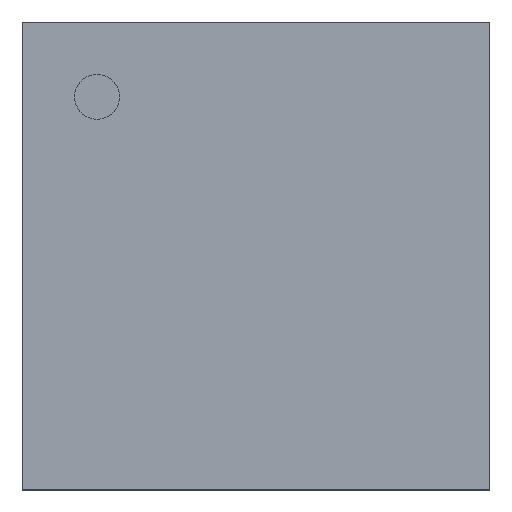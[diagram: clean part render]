
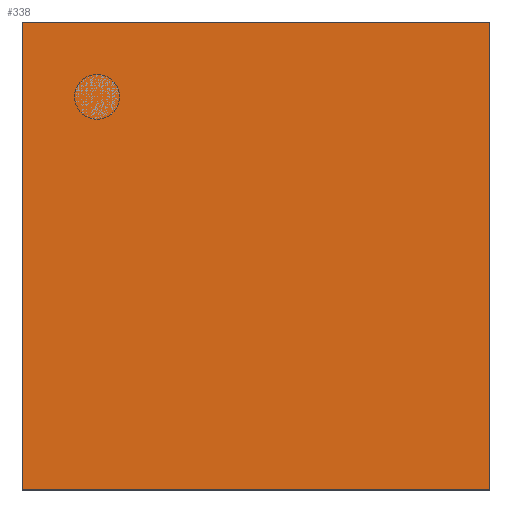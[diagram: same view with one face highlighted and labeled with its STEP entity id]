
A CAD part, top view. The second image highlights one B-rep face of the part: STEP entity #338.
In plain terms, the highlighted planar face has unit normal (0, 0, 1).
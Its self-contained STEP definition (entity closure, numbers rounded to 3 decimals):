
#24 = VERTEX_POINT('',#25);
#25 = CARTESIAN_POINT('',(-1.25,-1.25,1.21));
#32 = PLANE('',#33);
#33 = AXIS2_PLACEMENT_3D('',#34,#35,#36);
#34 = CARTESIAN_POINT('',(-1.25,-1.25,0.02));
#35 = DIRECTION('',(1.,0.,-0.));
#36 = DIRECTION('',(0.,0.,1.));
#44 = PLANE('',#45);
#45 = AXIS2_PLACEMENT_3D('',#46,#47,#48);
#46 = CARTESIAN_POINT('',(-1.25,-1.25,0.02));
#47 = DIRECTION('',(-0.,1.,0.));
#48 = DIRECTION('',(0.,0.,1.));
#85 = VERTEX_POINT('',#86);
#86 = CARTESIAN_POINT('',(-1.25,1.25,1.21));
#100 = PLANE('',#101);
#101 = AXIS2_PLACEMENT_3D('',#102,#103,#104);
#102 = CARTESIAN_POINT('',(-1.25,1.25,0.02));
#103 = DIRECTION('',(-0.,1.,0.));
#104 = DIRECTION('',(0.,0.,1.));
#112 = EDGE_CURVE('',#24,#85,#113,.T.);
#113 = SURFACE_CURVE('',#114,(#118,#125),.PCURVE_S1.);
#114 = LINE('',#115,#116);
#115 = CARTESIAN_POINT('',(-1.25,-1.25,1.21));
#116 = VECTOR('',#117,1.);
#117 = DIRECTION('',(-0.,1.,0.));
#118 = PCURVE('',#32,#119);
#119 = DEFINITIONAL_REPRESENTATION('',(#120),#124);
#120 = LINE('',#121,#122);
#121 = CARTESIAN_POINT('',(1.19,0.));
#122 = VECTOR('',#123,1.);
#123 = DIRECTION('',(0.,-1.));
#124 = ( GEOMETRIC_REPRESENTATION_CONTEXT(2) 
PARAMETRIC_REPRESENTATION_CONTEXT() REPRESENTATION_CONTEXT('2D SPACE',''
  ) );
#125 = PCURVE('',#126,#131);
#126 = PLANE('',#127);
#127 = AXIS2_PLACEMENT_3D('',#128,#129,#130);
#128 = CARTESIAN_POINT('',(-1.25,-1.25,1.21));
#129 = DIRECTION('',(0.,0.,1.));
#130 = DIRECTION('',(1.,0.,-0.));
#131 = DEFINITIONAL_REPRESENTATION('',(#132),#136);
#132 = LINE('',#133,#134);
#133 = CARTESIAN_POINT('',(0.,0.));
#134 = VECTOR('',#135,1.);
#135 = DIRECTION('',(0.,1.));
#136 = ( GEOMETRIC_REPRESENTATION_CONTEXT(2) 
PARAMETRIC_REPRESENTATION_CONTEXT() REPRESENTATION_CONTEXT('2D SPACE',''
  ) );
#144 = VERTEX_POINT('',#145);
#145 = CARTESIAN_POINT('',(1.25,-1.25,1.21));
#152 = PLANE('',#153);
#153 = AXIS2_PLACEMENT_3D('',#154,#155,#156);
#154 = CARTESIAN_POINT('',(1.25,-1.25,0.02));
#155 = DIRECTION('',(1.,0.,-0.));
#156 = DIRECTION('',(0.,0.,1.));
#195 = VERTEX_POINT('',#196);
#196 = CARTESIAN_POINT('',(1.25,1.25,1.21));
#217 = EDGE_CURVE('',#144,#195,#218,.T.);
#218 = SURFACE_CURVE('',#219,(#223,#230),.PCURVE_S1.);
#219 = LINE('',#220,#221);
#220 = CARTESIAN_POINT('',(1.25,-1.25,1.21));
#221 = VECTOR('',#222,1.);
#222 = DIRECTION('',(-0.,1.,0.));
#223 = PCURVE('',#152,#224);
#224 = DEFINITIONAL_REPRESENTATION('',(#225),#229);
#225 = LINE('',#226,#227);
#226 = CARTESIAN_POINT('',(1.19,0.));
#227 = VECTOR('',#228,1.);
#228 = DIRECTION('',(0.,-1.));
#229 = ( GEOMETRIC_REPRESENTATION_CONTEXT(2) 
PARAMETRIC_REPRESENTATION_CONTEXT() REPRESENTATION_CONTEXT('2D SPACE',''
  ) );
#230 = PCURVE('',#126,#231);
#231 = DEFINITIONAL_REPRESENTATION('',(#232),#236);
#232 = LINE('',#233,#234);
#233 = CARTESIAN_POINT('',(2.5,0.));
#234 = VECTOR('',#235,1.);
#235 = DIRECTION('',(0.,1.));
#236 = ( GEOMETRIC_REPRESENTATION_CONTEXT(2) 
PARAMETRIC_REPRESENTATION_CONTEXT() REPRESENTATION_CONTEXT('2D SPACE',''
  ) );
#263 = EDGE_CURVE('',#24,#144,#264,.T.);
#264 = SURFACE_CURVE('',#265,(#269,#276),.PCURVE_S1.);
#265 = LINE('',#266,#267);
#266 = CARTESIAN_POINT('',(-1.25,-1.25,1.21));
#267 = VECTOR('',#268,1.);
#268 = DIRECTION('',(1.,0.,-0.));
#269 = PCURVE('',#44,#270);
#270 = DEFINITIONAL_REPRESENTATION('',(#271),#275);
#271 = LINE('',#272,#273);
#272 = CARTESIAN_POINT('',(1.19,0.));
#273 = VECTOR('',#274,1.);
#274 = DIRECTION('',(0.,1.));
#275 = ( GEOMETRIC_REPRESENTATION_CONTEXT(2) 
PARAMETRIC_REPRESENTATION_CONTEXT() REPRESENTATION_CONTEXT('2D SPACE',''
  ) );
#276 = PCURVE('',#126,#277);
#277 = DEFINITIONAL_REPRESENTATION('',(#278),#282);
#278 = LINE('',#279,#280);
#279 = CARTESIAN_POINT('',(0.,0.));
#280 = VECTOR('',#281,1.);
#281 = DIRECTION('',(1.,0.));
#282 = ( GEOMETRIC_REPRESENTATION_CONTEXT(2) 
PARAMETRIC_REPRESENTATION_CONTEXT() REPRESENTATION_CONTEXT('2D SPACE',''
  ) );
#310 = EDGE_CURVE('',#85,#195,#311,.T.);
#311 = SURFACE_CURVE('',#312,(#316,#323),.PCURVE_S1.);
#312 = LINE('',#313,#314);
#313 = CARTESIAN_POINT('',(-1.25,1.25,1.21));
#314 = VECTOR('',#315,1.);
#315 = DIRECTION('',(1.,0.,-0.));
#316 = PCURVE('',#100,#317);
#317 = DEFINITIONAL_REPRESENTATION('',(#318),#322);
#318 = LINE('',#319,#320);
#319 = CARTESIAN_POINT('',(1.19,0.));
#320 = VECTOR('',#321,1.);
#321 = DIRECTION('',(0.,1.));
#322 = ( GEOMETRIC_REPRESENTATION_CONTEXT(2) 
PARAMETRIC_REPRESENTATION_CONTEXT() REPRESENTATION_CONTEXT('2D SPACE',''
  ) );
#323 = PCURVE('',#126,#324);
#324 = DEFINITIONAL_REPRESENTATION('',(#325),#329);
#325 = LINE('',#326,#327);
#326 = CARTESIAN_POINT('',(0.,2.5));
#327 = VECTOR('',#328,1.);
#328 = DIRECTION('',(1.,0.));
#329 = ( GEOMETRIC_REPRESENTATION_CONTEXT(2) 
PARAMETRIC_REPRESENTATION_CONTEXT() REPRESENTATION_CONTEXT('2D SPACE',''
  ) );
#338 = ADVANCED_FACE('',(#339),#126,.T.);
#339 = FACE_BOUND('',#340,.T.);
#340 = EDGE_LOOP('',(#341,#342,#343,#344));
#341 = ORIENTED_EDGE('',*,*,#112,.F.);
#342 = ORIENTED_EDGE('',*,*,#263,.T.);
#343 = ORIENTED_EDGE('',*,*,#217,.T.);
#344 = ORIENTED_EDGE('',*,*,#310,.F.);
